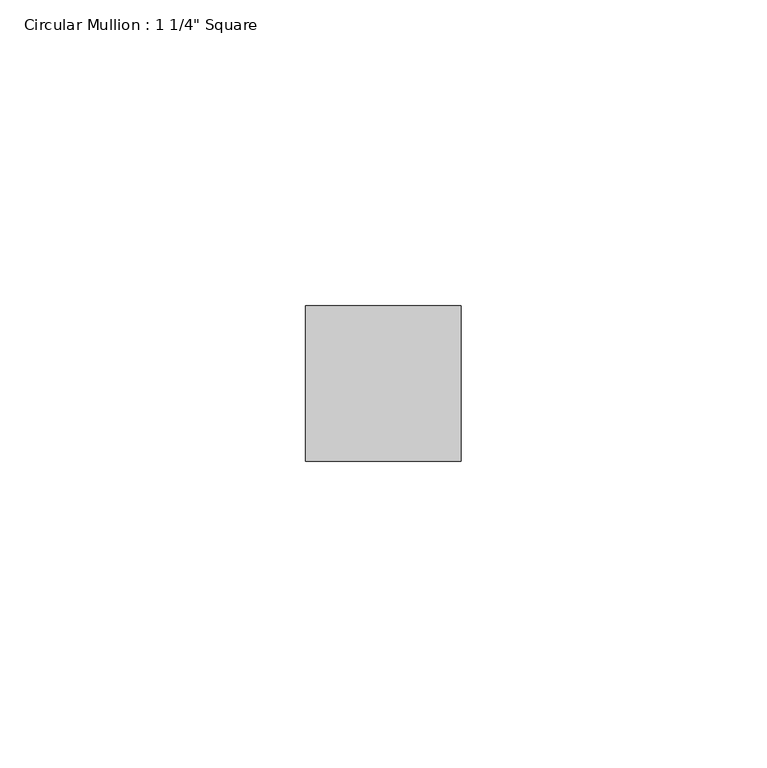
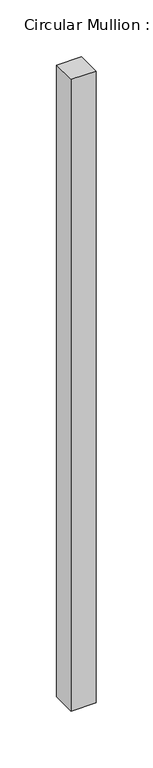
"""IFC4 building model written with IfcOpenShell, lengths in millimetres: member geometry."""

from ifc_helpers import new_model, si_unit, frame, origin, place, context, project, spatial, polyline, outline, extrude, source, transform, mapped, element, save


def member_118f13bb(model_context):
    return source(origin(), model_context, "Body", "SweptSolid", [
        extrude(outline(polyline([(12.7, 12.7), (12.7, -12.7), (-12.7, -12.7), (-12.7, 12.7), (12.7, 12.7)])), frame((0.0, 0.0, -678.0697437), z_axis=(0.0, 0.0, 1.0), x_axis=(1.0, 0.0, 0.0)), (0.0, 0.0, 1.0), 678.0697437),
    ])


if __name__ == "__main__":
    model = new_model("IFC4")
    model_context = context("Model", 3, world=origin())
    ifc_project = project(units=[si_unit("LENGTHUNIT", "METRE", prefix="MILLI")], contexts=[model_context])
    site = spatial("IfcSite", under=ifc_project)
    building = spatial("IfcBuilding", under=site)
    placement = place(None, origin())
    member_shape = member_118f13bb(model_context)
    element("IfcMember", 1, ObjectType="Circular Mullion : 1 1/4\" Square", at=placement, inside=building, context=model_context, shape_type="MappedRepresentation", body=[
        mapped(member_shape, transform((0.0, 0.0, 0.0), x_axis=(1.0, 0.0, 0.0), y_axis=(0.0, 1.0, 0.0), z_axis=(0.0, 0.0, 1.0))),
    ])
    save(model, "model.ifc")
